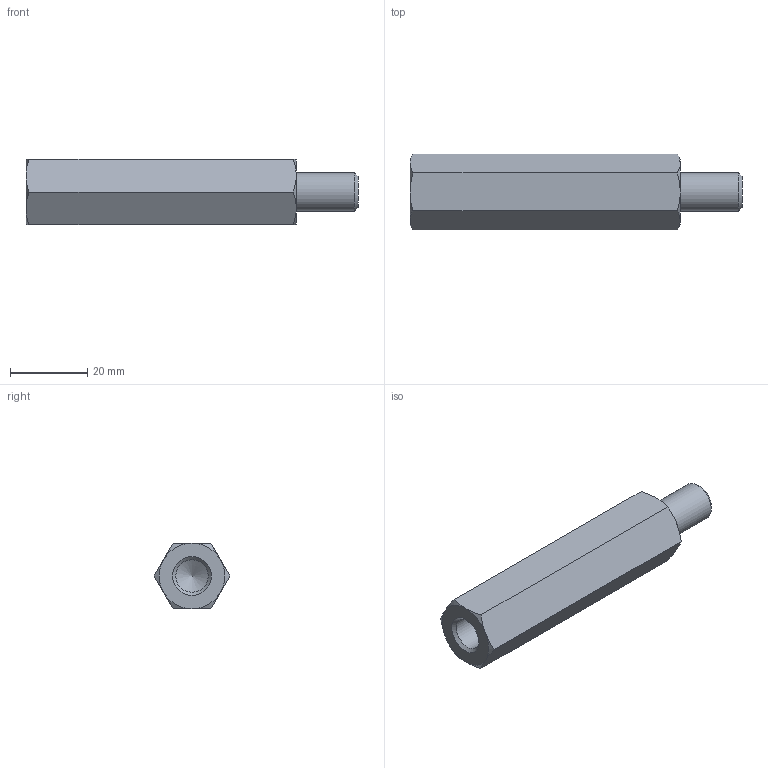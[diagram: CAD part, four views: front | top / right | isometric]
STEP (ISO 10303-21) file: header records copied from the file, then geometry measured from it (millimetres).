
FILE_DESCRIPTION( ( 'STEP AP203' ), '1' );
FILE_NAME( 'C:/Temp/Ganter_Step_05_03_2020/data/3_2/gn6220/gn6220_st/Spacer GN 6220-ST-M10-70-B.stp', '2020-03-13T05:42:54', ( 'License CC BY-ND 4.0' ), ( 'CADENAS' ), ' ', 'PARTsolutions', ' ' );
FILE_SCHEMA( ( 'CONFIG_CONTROL_DESIGN' ) );
Length unit declared in the file: millimetre
Products named in the file (1): _Spacer GN 6220-ST-M10-70-B
Bounding box: 86 x 19.63 x 17 mm (x, y, z)
Volume: 17303.7 mm3; surface area: 5747.3 mm2
Topology: 1 solids, 1 shells, 26 faces, 55 edges, 32 vertices
Faces by surface type: cone 15, plane 9, cylinder 2
Full cylindrical faces by diameter (mm): 8.376 x1, 10 x1
Entity records: 778 total; most frequent: CARTESIAN_POINT 242, DIRECTION 96, ORIENTED_EDGE 96, EDGE_CURVE 48, AXIS2_PLACEMENT_3D 45, EDGE_LOOP 32, VERTEX_POINT 31, FACE_OUTER_BOUND 28
